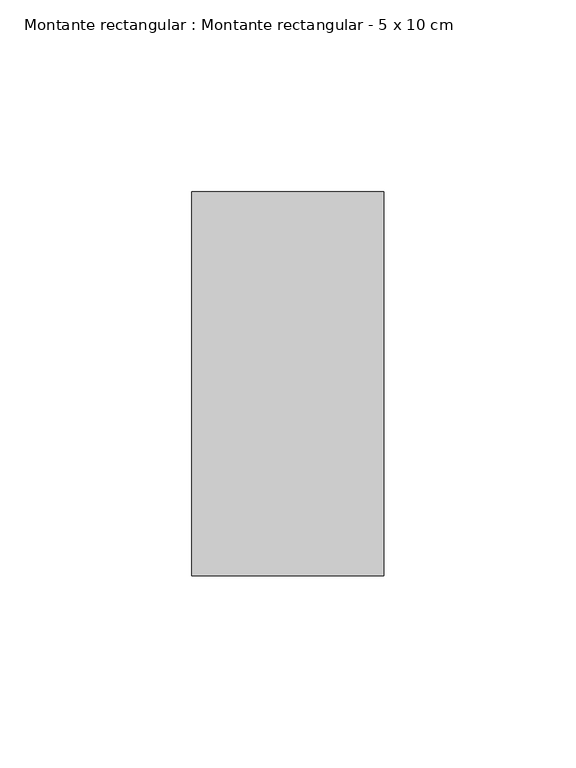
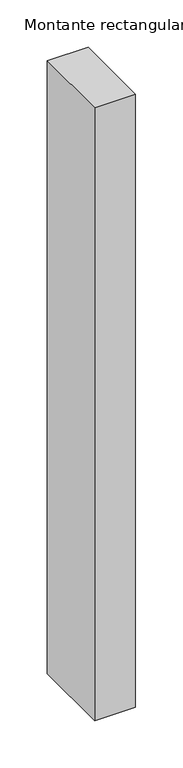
"""IFC4 building model written with IfcOpenShell, lengths in millimetres: member geometry, Montante rectangular : Montante rectangular - 5 x 10 cm."""

from ifc_helpers import new_model, si_unit, frame, origin, place, context, project, spatial, polyline, outline, extrude, source, transform, mapped, element, save


def montante_rectangular_montante_rectangular_5_x_10_cm_c93256ed(model_context):
    return source(origin(), model_context, "Body", "SweptSolid", [
        extrude(outline(polyline([(25.0, 50.0), (25.0, -50.0), (-25.0, -50.0), (-25.0, 50.0), (25.0, 50.0)])), frame((0.0, 0.0, -791.6666667), z_axis=(0.0, 0.0, 1.0), x_axis=(1.0, 0.0, 0.0)), (0.0, 0.0, 1.0), 791.6666667),
    ])


if __name__ == "__main__":
    model = new_model("IFC4")
    model_context = context("Model", 3, world=origin())
    ifc_project = project(units=[si_unit("LENGTHUNIT", "METRE", prefix="MILLI")], contexts=[model_context])
    site = spatial("IfcSite", under=ifc_project)
    building = spatial("IfcBuilding", under=site)
    placement = place(None, origin())
    montante_rectangular_montante_rectangular_5_x_10_cm_shape = montante_rectangular_montante_rectangular_5_x_10_cm_c93256ed(model_context)
    element("IfcMember", 1, ObjectType="Montante rectangular : Montante rectangular - 5 x 10 cm", at=placement, inside=building, context=model_context, shape_type="MappedRepresentation", body=[
        mapped(montante_rectangular_montante_rectangular_5_x_10_cm_shape, transform((0.0, 0.0, 0.0), x_axis=(1.0, 0.0, 0.0), y_axis=(0.0, 1.0, 0.0), z_axis=(0.0, 0.0, 1.0))),
    ])
    save(model, "model.ifc")
